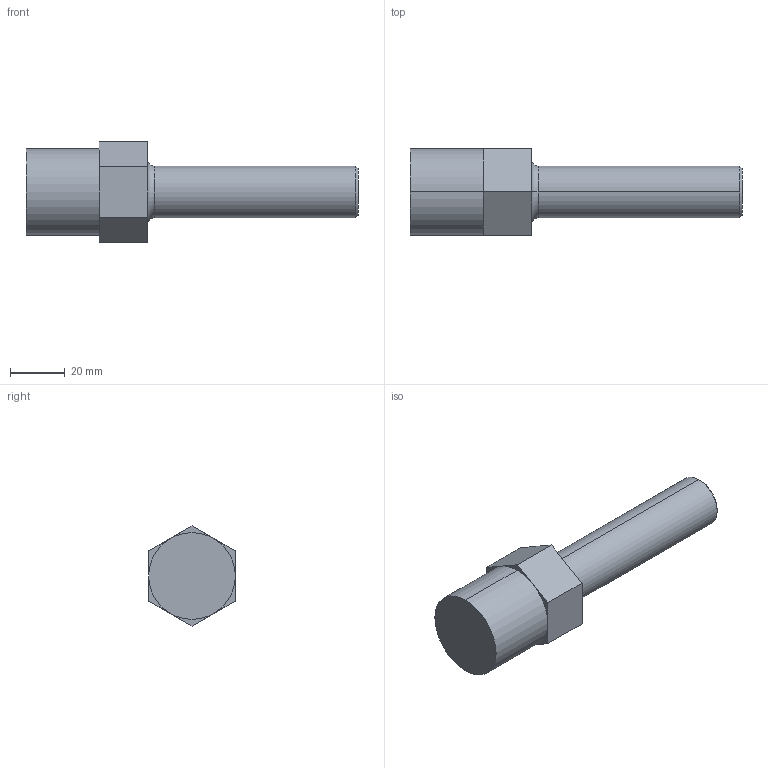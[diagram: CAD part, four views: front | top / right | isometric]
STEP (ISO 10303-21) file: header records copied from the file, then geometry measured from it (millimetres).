
FILE_DESCRIPTION (( 'STEP AP214' ), '1' );
FILE_NAME ('Fitting Tubeout 12.STEP', '2012-09-26T21:46:48', ( '' ), ( '' ), 'SwSTEP 2.0', 'SolidWorks 2012', '' );
FILE_SCHEMA (( 'AUTOMOTIVE_DESIGN' ));
Length unit declared in the file: inch
Products named in the file (1): Fitting Tubeout 12
Bounding box: 121.72 x 31.75 x 36.66 mm (x, y, z)
Volume: 58783.4 mm3; surface area: 10905.4 mm2
Topology: 1 solids, 1 shells, 23 faces, 50 edges, 30 vertices
Faces by surface type: plane 15, cylinder 4, torus 2, cone 2
Entity records: 703 total; most frequent: DIRECTION 118, CARTESIAN_POINT 104, ORIENTED_EDGE 100, EDGE_CURVE 50, AXIS2_PLACEMENT_3D 44, VECTOR 30, LINE 30, VERTEX_POINT 30
